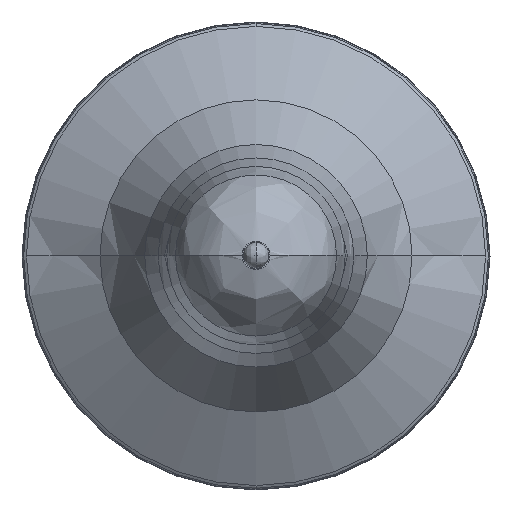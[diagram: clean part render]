
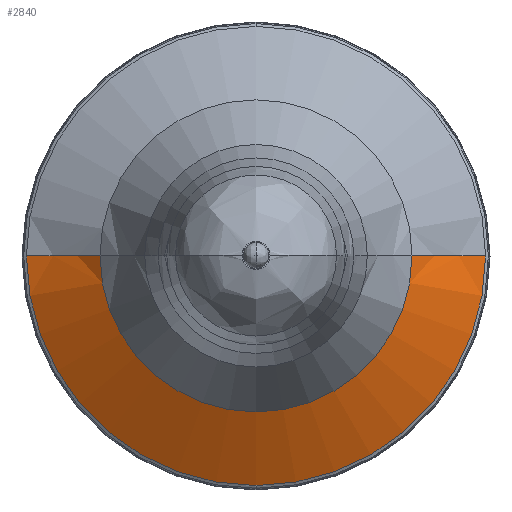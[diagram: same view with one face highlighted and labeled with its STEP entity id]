
A CAD part, top view. The second image highlights one B-rep face of the part: STEP entity #2840.
In plain terms, the highlighted free-form (B-spline) face has degree [2, 2] with [9, 9] control points.
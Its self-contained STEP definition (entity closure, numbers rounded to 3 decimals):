
#545=TRIMMED_CURVE($,#1001,(#46602),(#46603),.T.,.CARTESIAN.);
#550=TRIMMED_CURVE($,#1006,(#46617),(#46618),.T.,.CARTESIAN.);
#552=TRIMMED_CURVE($,#1008,(#46623),(#46624),.T.,.CARTESIAN.);
#553=TRIMMED_CURVE($,#1009,(#46626),(#46627),.T.,.CARTESIAN.);
#554=TRIMMED_CURVE($,#1010,(#46629),(#46630),.T.,.CARTESIAN.);
#1001=CIRCLE('',#20163,60.003);
#1006=CIRCLE('',#20168,88.294);
#1008=CIRCLE('',#20170,88.294);
#1009=CIRCLE('',#20171,63.5);
#1010=CIRCLE('',#20172,63.5);
#1896=(
BOUNDED_SURFACE()
B_SPLINE_SURFACE(2,2,((#44611,#44612,#44613,#44614,#44615,#44616,#44617,
#44618,#44619),(#44620,#44621,#44622,#44623,#44624,#44625,#44626,#44627,
#44628),(#44629,#44630,#44631,#44632,#44633,#44634,#44635,#44636,#44637),
(#44638,#44639,#44640,#44641,#44642,#44643,#44644,#44645,#44646),(#44647,
#44648,#44649,#44650,#44651,#44652,#44653,#44654,#44655),(#44656,#44657,
#44658,#44659,#44660,#44661,#44662,#44663,#44664),(#44665,#44666,#44667,
#44668,#44669,#44670,#44671,#44672,#44673),(#44674,#44675,#44676,#44677,
#44678,#44679,#44680,#44681,#44682),(#44683,#44684,#44685,#44686,#44687,
#44688,#44689,#44690,#44691)),.UNSPECIFIED.,.T.,.F.,.F.)
B_SPLINE_SURFACE_WITH_KNOTS((3,2,2,2,3),(3,2,2,2,3),(0.,99.746,
199.491,299.237,398.982),(0.,162.249,
324.497,486.746,648.994),.UNSPECIFIED.)
GEOMETRIC_REPRESENTATION_ITEM()
RATIONAL_B_SPLINE_SURFACE(((1.,0.707,1.,0.707,1.,
0.707,1.,0.707,1.),(0.707,0.5,0.707,
0.5,0.707,0.5,0.707,0.5,0.707),(1.,
0.707,1.,0.707,1.,0.707,1.,0.707,
1.),(0.707,0.5,0.707,0.5,0.707,0.5,
0.707,0.5,0.707),(1.,0.707,1.,0.707,
1.,0.707,1.,0.707,1.),(0.707,0.5,0.707,
0.5,0.707,0.5,0.707,0.5,0.707),(1.,
0.707,1.,0.707,1.,0.707,1.,0.707,
1.),(0.707,0.5,0.707,0.5,0.707,0.5,
0.707,0.5,0.707),(1.,0.707,1.,0.707,
1.,0.707,1.,0.707,1.)))
REPRESENTATION_ITEM('')
SURFACE()
);
#2840=ADVANCED_FACE('',(#3852),#1896,.T.);
#3852=FACE_OUTER_BOUND('',#4930,.T.);
#4930=EDGE_LOOP('',(#9564,#9565,#9566,#9567,#9568));
#9564=ORIENTED_EDGE('',*,*,#12614,.T.);
#9565=ORIENTED_EDGE('',*,*,#12610,.F.);
#9566=ORIENTED_EDGE('',*,*,#12612,.F.);
#9567=ORIENTED_EDGE('',*,*,#12613,.F.);
#9568=ORIENTED_EDGE('',*,*,#12605,.T.);
#12605=EDGE_CURVE('',#16661,#16660,#545,.T.);
#12610=EDGE_CURVE('',#16668,#16664,#550,.T.);
#12612=EDGE_CURVE('',#16669,#16668,#552,.T.);
#12613=EDGE_CURVE('',#16661,#16669,#553,.T.);
#12614=EDGE_CURVE('',#16660,#16664,#554,.T.);
#16660=VERTEX_POINT('',#46394);
#16661=VERTEX_POINT('',#46395);
#16664=VERTEX_POINT('',#46398);
#16668=VERTEX_POINT('',#46402);
#16669=VERTEX_POINT('',#46403);
#20163=AXIS2_PLACEMENT_3D($,#46601,#21430,#21431);
#20168=AXIS2_PLACEMENT_3D($,#46616,#21440,#21441);
#20170=AXIS2_PLACEMENT_3D($,#46622,#21444,#21445);
#20171=AXIS2_PLACEMENT_3D($,#46625,#21446,#21447);
#20172=AXIS2_PLACEMENT_3D($,#46628,#21448,#21449);
#21430=DIRECTION('',(0.,-1.,0.));
#21431=DIRECTION('',(1.,0.,0.));
#21440=DIRECTION('',(0.,-1.,0.));
#21441=DIRECTION('',(0.,0.,1.));
#21444=DIRECTION('',(0.,-1.,0.));
#21445=DIRECTION('',(1.,0.,0.));
#21446=DIRECTION('',(0.,0.,1.));
#21447=DIRECTION('',(-0.682,-0.732,0.));
#21448=DIRECTION('',(0.,0.,-1.));
#21449=DIRECTION('',(0.682,-0.732,0.));
#44611=CARTESIAN_POINT('',(166.791,226.949,0.));
#44612=CARTESIAN_POINT('',(166.791,226.949,-166.791));
#44613=CARTESIAN_POINT('',(0.,226.949,-166.791));
#44614=CARTESIAN_POINT('',(-166.791,226.949,-166.791));
#44615=CARTESIAN_POINT('',(-166.791,226.949,0.));
#44616=CARTESIAN_POINT('',(-166.791,226.949,166.791));
#44617=CARTESIAN_POINT('',(0.,226.949,166.791));
#44618=CARTESIAN_POINT('',(166.791,226.949,166.791));
#44619=CARTESIAN_POINT('',(166.791,226.949,0.));
#44620=CARTESIAN_POINT('',(166.791,290.449,0.));
#44621=CARTESIAN_POINT('',(166.791,290.449,-166.791));
#44622=CARTESIAN_POINT('',(0.,290.449,-166.791));
#44623=CARTESIAN_POINT('',(-166.791,290.449,-166.791));
#44624=CARTESIAN_POINT('',(-166.791,290.449,0.));
#44625=CARTESIAN_POINT('',(-166.791,290.449,166.791));
#44626=CARTESIAN_POINT('',(0.,290.449,166.791));
#44627=CARTESIAN_POINT('',(166.791,290.449,166.791));
#44628=CARTESIAN_POINT('',(166.791,290.449,0.));
#44629=CARTESIAN_POINT('',(103.291,290.449,0.));
#44630=CARTESIAN_POINT('',(103.291,290.449,-103.291));
#44631=CARTESIAN_POINT('',(0.,290.449,-103.291));
#44632=CARTESIAN_POINT('',(-103.291,290.449,-103.291));
#44633=CARTESIAN_POINT('',(-103.291,290.449,0.));
#44634=CARTESIAN_POINT('',(-103.291,290.449,103.291));
#44635=CARTESIAN_POINT('',(0.,290.449,103.291));
#44636=CARTESIAN_POINT('',(103.291,290.449,103.291));
#44637=CARTESIAN_POINT('',(103.291,290.449,0.));
#44638=CARTESIAN_POINT('',(39.791,290.449,0.));
#44639=CARTESIAN_POINT('',(39.791,290.449,-39.791));
#44640=CARTESIAN_POINT('',(0.,290.449,-39.791));
#44641=CARTESIAN_POINT('',(-39.791,290.449,-39.791));
#44642=CARTESIAN_POINT('',(-39.791,290.449,0.));
#44643=CARTESIAN_POINT('',(-39.791,290.449,39.791));
#44644=CARTESIAN_POINT('',(0.,290.449,39.791));
#44645=CARTESIAN_POINT('',(39.791,290.449,39.791));
#44646=CARTESIAN_POINT('',(39.791,290.449,0.));
#44647=CARTESIAN_POINT('',(39.791,226.949,0.));
#44648=CARTESIAN_POINT('',(39.791,226.949,-39.791));
#44649=CARTESIAN_POINT('',(0.,226.949,-39.791));
#44650=CARTESIAN_POINT('',(-39.791,226.949,-39.791));
#44651=CARTESIAN_POINT('',(-39.791,226.949,0.));
#44652=CARTESIAN_POINT('',(-39.791,226.949,39.791));
#44653=CARTESIAN_POINT('',(0.,226.949,39.791));
#44654=CARTESIAN_POINT('',(39.791,226.949,39.791));
#44655=CARTESIAN_POINT('',(39.791,226.949,0.));
#44656=CARTESIAN_POINT('',(39.791,163.449,0.));
#44657=CARTESIAN_POINT('',(39.791,163.449,-39.791));
#44658=CARTESIAN_POINT('',(0.,163.449,-39.791));
#44659=CARTESIAN_POINT('',(-39.791,163.449,-39.791));
#44660=CARTESIAN_POINT('',(-39.791,163.449,0.));
#44661=CARTESIAN_POINT('',(-39.791,163.449,39.791));
#44662=CARTESIAN_POINT('',(0.,163.449,39.791));
#44663=CARTESIAN_POINT('',(39.791,163.449,39.791));
#44664=CARTESIAN_POINT('',(39.791,163.449,0.));
#44665=CARTESIAN_POINT('',(103.291,163.449,0.));
#44666=CARTESIAN_POINT('',(103.291,163.449,-103.291));
#44667=CARTESIAN_POINT('',(0.,163.449,-103.291));
#44668=CARTESIAN_POINT('',(-103.291,163.449,-103.291));
#44669=CARTESIAN_POINT('',(-103.291,163.449,0.));
#44670=CARTESIAN_POINT('',(-103.291,163.449,103.291));
#44671=CARTESIAN_POINT('',(0.,163.449,103.291));
#44672=CARTESIAN_POINT('',(103.291,163.449,103.291));
#44673=CARTESIAN_POINT('',(103.291,163.449,0.));
#44674=CARTESIAN_POINT('',(166.791,163.449,0.));
#44675=CARTESIAN_POINT('',(166.791,163.449,-166.791));
#44676=CARTESIAN_POINT('',(0.,163.449,-166.791));
#44677=CARTESIAN_POINT('',(-166.791,163.449,-166.791));
#44678=CARTESIAN_POINT('',(-166.791,163.449,0.));
#44679=CARTESIAN_POINT('',(-166.791,163.449,166.791));
#44680=CARTESIAN_POINT('',(0.,163.449,166.791));
#44681=CARTESIAN_POINT('',(166.791,163.449,166.791));
#44682=CARTESIAN_POINT('',(166.791,163.449,0.));
#44683=CARTESIAN_POINT('',(166.791,226.949,0.));
#44684=CARTESIAN_POINT('',(166.791,226.949,-166.791));
#44685=CARTESIAN_POINT('',(0.,226.949,-166.791));
#44686=CARTESIAN_POINT('',(-166.791,226.949,-166.791));
#44687=CARTESIAN_POINT('',(-166.791,226.949,0.));
#44688=CARTESIAN_POINT('',(-166.791,226.949,166.791));
#44689=CARTESIAN_POINT('',(0.,226.949,166.791));
#44690=CARTESIAN_POINT('',(166.791,226.949,166.791));
#44691=CARTESIAN_POINT('',(166.791,226.949,0.));
#46394=CARTESIAN_POINT('',(-60.003,180.49,0.));
#46395=CARTESIAN_POINT('',(60.003,180.49,0.));
#46398=CARTESIAN_POINT('',(-88.294,165.245,0.));
#46402=CARTESIAN_POINT('',(0.,165.245,88.294));
#46403=CARTESIAN_POINT('',(88.294,165.245,0.));
#46601=CARTESIAN_POINT('',(0.,180.49,0.));
#46602=CARTESIAN_POINT('',(60.003,180.49,0.));
#46603=CARTESIAN_POINT('',(-60.003,180.49,0.));
#46616=CARTESIAN_POINT('',(0.,165.245,0.));
#46617=CARTESIAN_POINT('',(0.,165.245,88.294));
#46618=CARTESIAN_POINT('',(-88.294,165.245,0.));
#46622=CARTESIAN_POINT('',(0.,165.245,0.));
#46623=CARTESIAN_POINT('',(88.294,165.245,0.));
#46624=CARTESIAN_POINT('',(0.,165.245,88.294));
#46625=CARTESIAN_POINT('',(103.291,226.949,0.));
#46626=CARTESIAN_POINT('',(60.003,180.49,0.));
#46627=CARTESIAN_POINT('',(88.294,165.245,0.));
#46628=CARTESIAN_POINT('',(-103.291,226.949,0.));
#46629=CARTESIAN_POINT('',(-60.003,180.49,0.));
#46630=CARTESIAN_POINT('',(-88.294,165.245,0.));
